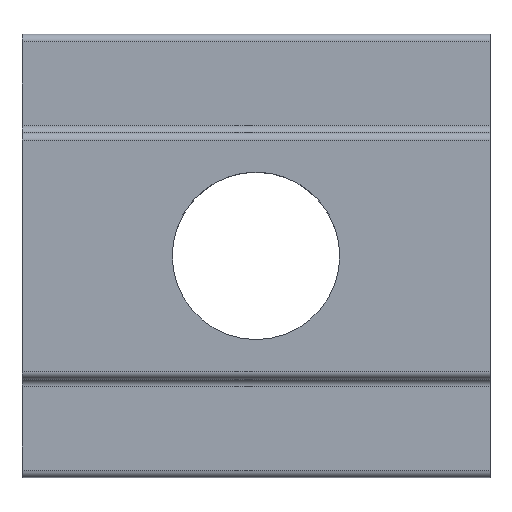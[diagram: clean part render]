
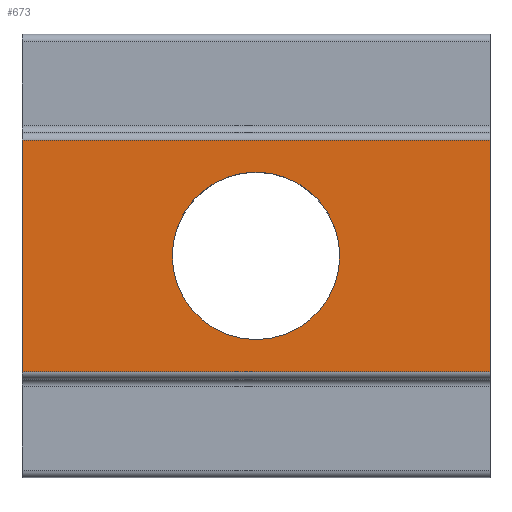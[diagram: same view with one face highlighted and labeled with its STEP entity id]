
A CAD part, top view. The second image highlights one B-rep face of the part: STEP entity #673.
In plain terms, the highlighted planar face has unit normal (0, 0, 1).
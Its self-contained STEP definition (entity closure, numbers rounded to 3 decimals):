
#30 = VECTOR ( 'NONE', #599, 1000. ) ;
#91 = DIRECTION ( 'NONE',  ( 1., 0., 0. ) ) ;
#95 = VECTOR ( 'NONE', #179, 1000. ) ;
#108 = DIRECTION ( 'NONE',  ( -1., 0., 0. ) ) ;
#113 = LINE ( 'NONE', #650, #95 ) ;
#115 = DIRECTION ( 'NONE',  ( -1., 0., 0. ) ) ;
#129 = CARTESIAN_POINT ( 'NONE',  ( -3.4, 0., 0. ) ) ;
#179 = DIRECTION ( 'NONE',  ( 0., -1., 0. ) ) ;
#193 = AXIS2_PLACEMENT_3D ( 'NONE', #554, #356, #91 ) ;
#215 = FACE_BOUND ( 'NONE', #778, .T. ) ;
#217 = ORIENTED_EDGE ( 'NONE', *, *, #436, .F. ) ;
#244 = CARTESIAN_POINT ( 'NONE',  ( 9.5, 4.7, 0. ) ) ;
#250 = VECTOR ( 'NONE', #550, 1000. ) ;
#260 = VERTEX_POINT ( 'NONE', #576 ) ;
#280 = EDGE_CURVE ( 'NONE', #260, #791, #307, .T. ) ;
#281 = PLANE ( 'NONE',  #368 ) ;
#285 = CARTESIAN_POINT ( 'NONE',  ( 9.5, 4.7, 0. ) ) ;
#289 = CARTESIAN_POINT ( 'NONE',  ( 3.4, 0., 0. ) ) ;
#307 = LINE ( 'NONE', #518, #649 ) ;
#313 = VERTEX_POINT ( 'NONE', #244 ) ;
#327 = EDGE_CURVE ( 'NONE', #313, #260, #113, .T. ) ;
#356 = DIRECTION ( 'NONE',  ( 0., 0., 1. ) ) ;
#368 = AXIS2_PLACEMENT_3D ( 'NONE', #842, #635, #115 ) ;
#391 = LINE ( 'NONE', #400, #30 ) ;
#400 = CARTESIAN_POINT ( 'NONE',  ( -9.5, 4.7, 0. ) ) ;
#413 = CIRCLE ( 'NONE', #527, 3.4 ) ;
#417 = VERTEX_POINT ( 'NONE', #542 ) ;
#421 = LINE ( 'NONE', #285, #250 ) ;
#436 = EDGE_CURVE ( 'NONE', #791, #417, #391, .T. ) ;
#437 = ORIENTED_EDGE ( 'NONE', *, *, #539, .F. ) ;
#463 = ORIENTED_EDGE ( 'NONE', *, *, #753, .F. ) ;
#505 = DIRECTION ( 'NONE',  ( 1., 0., 0. ) ) ;
#518 = CARTESIAN_POINT ( 'NONE',  ( 9.5, -4.7, 0. ) ) ;
#527 = AXIS2_PLACEMENT_3D ( 'NONE', #765, #776, #505 ) ;
#531 = EDGE_CURVE ( 'NONE', #560, #817, #746, .T. ) ;
#539 = EDGE_CURVE ( 'NONE', #417, #313, #421, .T. ) ;
#542 = CARTESIAN_POINT ( 'NONE',  ( -9.5, 4.7, 0. ) ) ;
#550 = DIRECTION ( 'NONE',  ( 1., 0., 0. ) ) ;
#554 = CARTESIAN_POINT ( 'NONE',  ( 0., 0., 0. ) ) ;
#556 = ORIENTED_EDGE ( 'NONE', *, *, #531, .F. ) ;
#560 = VERTEX_POINT ( 'NONE', #289 ) ;
#576 = CARTESIAN_POINT ( 'NONE',  ( 9.5, -4.7, 0. ) ) ;
#599 = DIRECTION ( 'NONE',  ( 0., 1., 0. ) ) ;
#616 = FACE_OUTER_BOUND ( 'NONE', #846, .T. ) ;
#635 = DIRECTION ( 'NONE',  ( 0., 0., -1. ) ) ;
#641 = CARTESIAN_POINT ( 'NONE',  ( -9.5, -4.7, 0. ) ) ;
#649 = VECTOR ( 'NONE', #108, 1000. ) ;
#650 = CARTESIAN_POINT ( 'NONE',  ( 9.5, 4.7, 0. ) ) ;
#656 = ORIENTED_EDGE ( 'NONE', *, *, #280, .F. ) ;
#665 = ORIENTED_EDGE ( 'NONE', *, *, #327, .F. ) ;
#673 = ADVANCED_FACE ( 'NONE', ( #215, #616 ), #281, .F. ) ;
#746 = CIRCLE ( 'NONE', #193, 3.4 ) ;
#753 = EDGE_CURVE ( 'NONE', #817, #560, #413, .T. ) ;
#765 = CARTESIAN_POINT ( 'NONE',  ( 0., 0., 0. ) ) ;
#776 = DIRECTION ( 'NONE',  ( 0., 0., 1. ) ) ;
#778 = EDGE_LOOP ( 'NONE', ( #556, #463 ) ) ;
#791 = VERTEX_POINT ( 'NONE', #641 ) ;
#817 = VERTEX_POINT ( 'NONE', #129 ) ;
#842 = CARTESIAN_POINT ( 'NONE',  ( 9.5, 4.7, 0. ) ) ;
#846 = EDGE_LOOP ( 'NONE', ( #656, #665, #437, #217 ) ) ;
